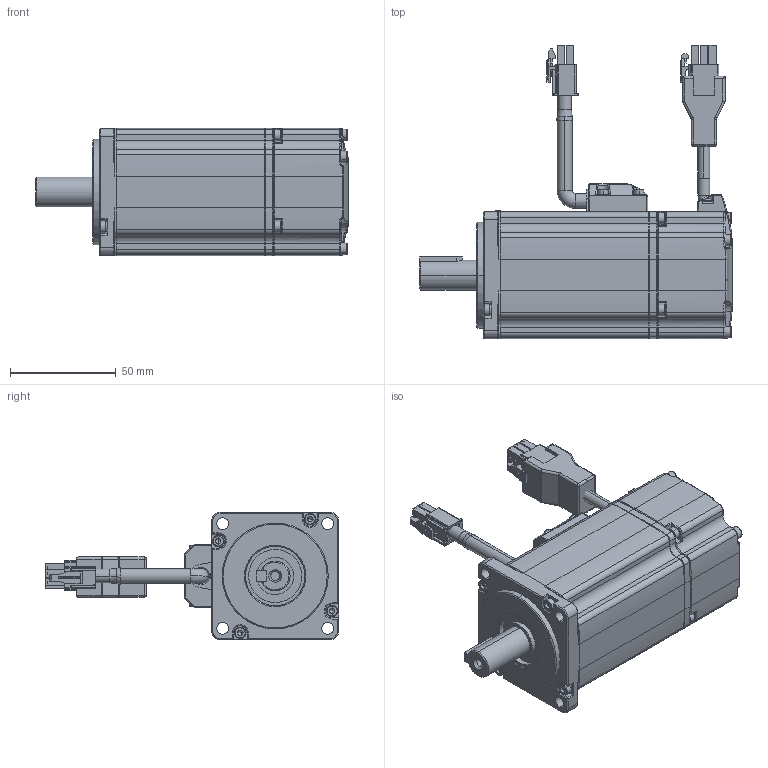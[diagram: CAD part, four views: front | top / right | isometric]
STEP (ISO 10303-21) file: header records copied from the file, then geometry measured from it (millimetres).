
FILE_DESCRIPTION (( 'STEP AP203' ), '1' );
FILE_NAME ('EM3A04A-100-A2-S（永磁交流伺服电机）.STEP', '2018-12-18T03:03:29', ( '' ), ( '' ), 'SwSTEP 2.0', 'SolidWorks 2016', '' );
FILE_SCHEMA (( 'CONFIG_CONTROL_DESIGN' ));
Length unit declared in the file: millimetre
Products named in the file (1): EM3A04A-100-A2-S（永磁交流伺服电机）
Bounding box: 147.5 x 138.49 x 60 mm (x, y, z)
Surface area: 52037.2 mm2 (no closed solid volume)
Topology: 0 solids, 63 shells, 1330 faces, 3926 edges, 2548 vertices
Faces by surface type: plane 495, cylinder 424, cone 143, torus 142, bspline 87, sphere 39
Entity records: 45642 total; most frequent: CARTESIAN_POINT 11371, DIRECTION 7277, ORIENTED_EDGE 6547, EDGE_CURVE 3871, AXIS2_PLACEMENT_3D 2667, VERTEX_POINT 2548, LINE 1943, VECTOR 1943
